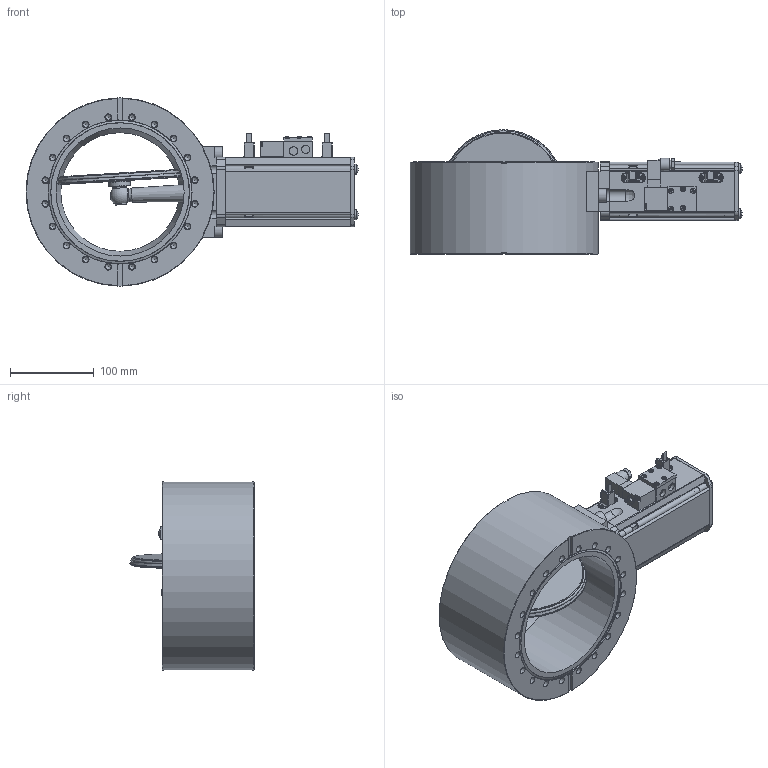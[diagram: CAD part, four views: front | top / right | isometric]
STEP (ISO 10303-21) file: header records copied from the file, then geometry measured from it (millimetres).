
FILE_DESCRIPTION(/* description */ (''),/* implementation_level */ '2;1');
FILE_NAME(/* name */ '1150325200_203.stp',/* time_stamp */ '2010-12-03T07:29:27+01:00',/* author */ (''),/* organization */ (''),/* preprocessor_version */ 'ST-DEVELOPER v11',/* originating_system */ 'SIEMENS UGS NX 6.0',/* authorisation */ '');
FILE_SCHEMA (('CONFIG_CONTROL_DESIGN'));
Length unit declared in the file: millimetre
Products named in the file (35): 227430.1; N-8409-200.3; 92571-01.2; N-6089-310.1; 366254; 227328.2; 227452.1; N-6024-515.1; 227450.1; N-7557-016_1.1; N-7557-018.1; N-7557-016_2.1; N-7557-016_3.1; N-6024-524.1; N-5018-005.1; N-5100-253_2.1; 233395.2; 229427.2; 217806.3; 223811.6; 244917.1; N-6013-443.2; N-6005-499.3; N-6024-571.1; N-6073-406.1; 218204.1; 223509.4; 223513.3; 85948-01.1; 227117.3; 226699_NX-ARRAGMNTZUSAMMENST1; 94800-R1.7_NX-ARRAGMNTKONFIG4; 366255; 243956.1_NX-ARRAGMNTZUSAMMENST1; 244957.6
Assembly tree (53 placements, depth 4):
  244957.6
    85948-01.1
    223513.3
    223509.4
    218204.1  x2
    N-6073-406.1  x2
    N-6024-571.1  x4
    N-6005-499.3
    N-6013-443.2  x4
    244917.1
    243956.1_NX-ARRAGMNTZUSAMMENST1
      233395.2
      N-5100-253_2.1
      366255
        366254
        N-6089-310.1
    94800-R1.7_NX-ARRAGMNTKONFIG4
      N-5018-005.1  x2
      N-6024-524.1  x6
      N-7557-016_3.1
      N-7557-016_2.1
      N-7557-018.1
      N-7557-016_1.1
    223811.6
    217806.3  x4
    229427.2
    226699_NX-ARRAGMNTZUSAMMENST1  x2
      227450.1
      N-6024-515.1
      227452.1
      227328.2
      227117.3
        92571-01.2
        N-8409-200.3
        227430.1
Bounding box: 397 x 148.51 x 224.99 mm (x, y, z)
Volume: 3032569.8 mm3; surface area: 460168.5 mm2
Topology: 63 solids, 63 shells, 1738 faces, 4187 edges, 2725 vertices
Faces by surface type: plane 1075, cylinder 466, cone 127, sphere 26, bspline 22, torus 18, extrusion 4
Full cylindrical faces by diameter (mm): 0.4 x4, 0.6 x4, 1.1 x4, 1.2 x2, 2 x5, 2.2 x4, 2.5 x10, 2.7 x2, 2.9 x4, 3 x12, 3.2 x2, 3.3 x2, 3.4 x4, 3.5 x10, 4 x15, 4.16 x2, 4.2 x4, 4.4 x4, 5 x19, 6 x21, 6.5 x4, 6.6 x4, 6.66 x1, 6.7 x1, 6.8 x40, 7.008 x1, 7.5 x5, 7.9 x2, 8 x51, 8.36 x2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
Entity records: 37176 total; most frequent: CARTESIAN_POINT 6863, DIRECTION 5474, ORIENTED_EDGE 4660, EDGE_CURVE 2330, AXIS2_PLACEMENT_3D 2095, VERTEX_POINT 1775, EDGE_LOOP 1740, VECTOR 1284
